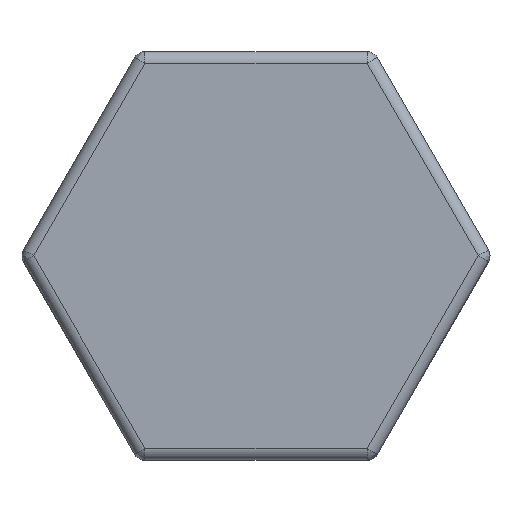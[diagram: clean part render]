
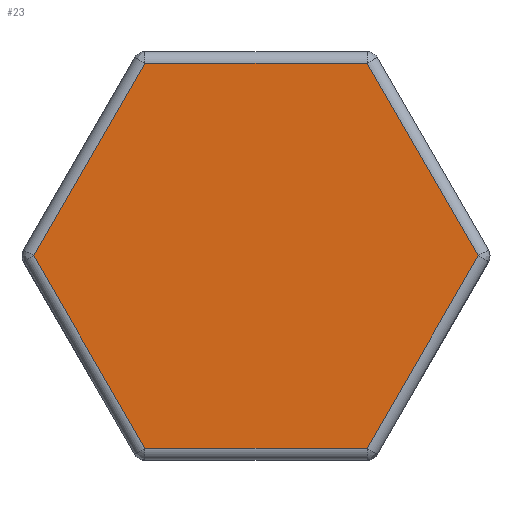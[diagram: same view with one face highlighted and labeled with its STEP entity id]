
A CAD part, top view. The second image highlights one B-rep face of the part: STEP entity #23.
In plain terms, the highlighted planar face has unit normal (0, 0, 1).
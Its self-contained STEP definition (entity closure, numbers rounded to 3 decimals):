
#23=ADVANCED_FACE('',(#56),#470,.T.);
#56=FACE_OUTER_BOUND('',#90,.T.);
#90=EDGE_LOOP('',(#157,#158,#159,#160,#161,#162));
#157=ORIENTED_EDGE('',*,*,#300,.T.);
#158=ORIENTED_EDGE('',*,*,#305,.T.);
#159=ORIENTED_EDGE('',*,*,#283,.T.);
#160=ORIENTED_EDGE('',*,*,#310,.T.);
#161=ORIENTED_EDGE('',*,*,#288,.T.);
#162=ORIENTED_EDGE('',*,*,#284,.T.);
#283=EDGE_CURVE('',#450,#448,#354,.T.);
#284=EDGE_CURVE('',#451,#446,#355,.T.);
#288=EDGE_CURVE('',#449,#451,#323,.T.);
#300=EDGE_CURVE('',#446,#447,#324,.T.);
#305=EDGE_CURVE('',#447,#450,#325,.T.);
#310=EDGE_CURVE('',#448,#449,#326,.T.);
#323=(
BOUNDED_CURVE()
B_SPLINE_CURVE(1,(#979,#980),.UNSPECIFIED.,.F.,.F.)
B_SPLINE_CURVE_WITH_KNOTS((2,2),(0.173,5.827),
 .UNSPECIFIED.)
CURVE()
GEOMETRIC_REPRESENTATION_ITEM()
RATIONAL_B_SPLINE_CURVE((1.,1.))
REPRESENTATION_ITEM('')
);
#324=(
BOUNDED_CURVE()
B_SPLINE_CURVE(1,(#1014,#1015),.UNSPECIFIED.,.F.,.F.)
B_SPLINE_CURVE_WITH_KNOTS((2,2),(0.173,5.827),
 .UNSPECIFIED.)
CURVE()
GEOMETRIC_REPRESENTATION_ITEM()
RATIONAL_B_SPLINE_CURVE((1.,1.))
REPRESENTATION_ITEM('')
);
#325=(
BOUNDED_CURVE()
B_SPLINE_CURVE(1,(#1028,#1029),.UNSPECIFIED.,.F.,.F.)
B_SPLINE_CURVE_WITH_KNOTS((2,2),(0.173,5.827),
 .UNSPECIFIED.)
CURVE()
GEOMETRIC_REPRESENTATION_ITEM()
RATIONAL_B_SPLINE_CURVE((1.,1.))
REPRESENTATION_ITEM('')
);
#326=(
BOUNDED_CURVE()
B_SPLINE_CURVE(1,(#1042,#1043),.UNSPECIFIED.,.F.,.F.)
B_SPLINE_CURVE_WITH_KNOTS((2,2),(0.173,5.827),
 .UNSPECIFIED.)
CURVE()
GEOMETRIC_REPRESENTATION_ITEM()
RATIONAL_B_SPLINE_CURVE((1.,1.))
REPRESENTATION_ITEM('')
);
#354=B_SPLINE_CURVE_WITH_KNOTS('',1,(#966,#967),.UNSPECIFIED.,.F.,.F.,(2,
2),(0.173,5.827),.UNSPECIFIED.);
#355=B_SPLINE_CURVE_WITH_KNOTS('',1,(#968,#969),.UNSPECIFIED.,.F.,.F.,(2,
2),(0.173,5.827),.UNSPECIFIED.);
#446=VERTEX_POINT('',#882);
#447=VERTEX_POINT('',#883);
#448=VERTEX_POINT('',#884);
#449=VERTEX_POINT('',#885);
#450=VERTEX_POINT('',#886);
#451=VERTEX_POINT('',#887);
#470=PLANE('',#584);
#584=AXIS2_PLACEMENT_3D('',#730,#642,$);
#642=DIRECTION('',(0.,0.,1.));
#730=CARTESIAN_POINT('',(307.5,150.495,55.));
#882=CARTESIAN_POINT('',(297.173,148.896,55.));
#883=CARTESIAN_POINT('',(294.346,144.,55.));
#884=CARTESIAN_POINT('',(302.827,139.104,55.));
#885=CARTESIAN_POINT('',(305.654,144.,55.));
#886=CARTESIAN_POINT('',(297.173,139.104,55.));
#887=CARTESIAN_POINT('',(302.827,148.896,55.));
#966=CARTESIAN_POINT('',(297.173,139.104,55.));
#967=CARTESIAN_POINT('',(302.827,139.104,55.));
#968=CARTESIAN_POINT('',(302.827,148.896,55.));
#969=CARTESIAN_POINT('',(297.173,148.896,55.));
#979=CARTESIAN_POINT('',(305.654,144.,55.));
#980=CARTESIAN_POINT('',(302.827,148.896,55.));
#1014=CARTESIAN_POINT('',(297.173,148.896,55.));
#1015=CARTESIAN_POINT('',(294.346,144.,55.));
#1028=CARTESIAN_POINT('',(294.346,144.,55.));
#1029=CARTESIAN_POINT('',(297.173,139.104,55.));
#1042=CARTESIAN_POINT('',(302.827,139.104,55.));
#1043=CARTESIAN_POINT('',(305.654,144.,55.));
